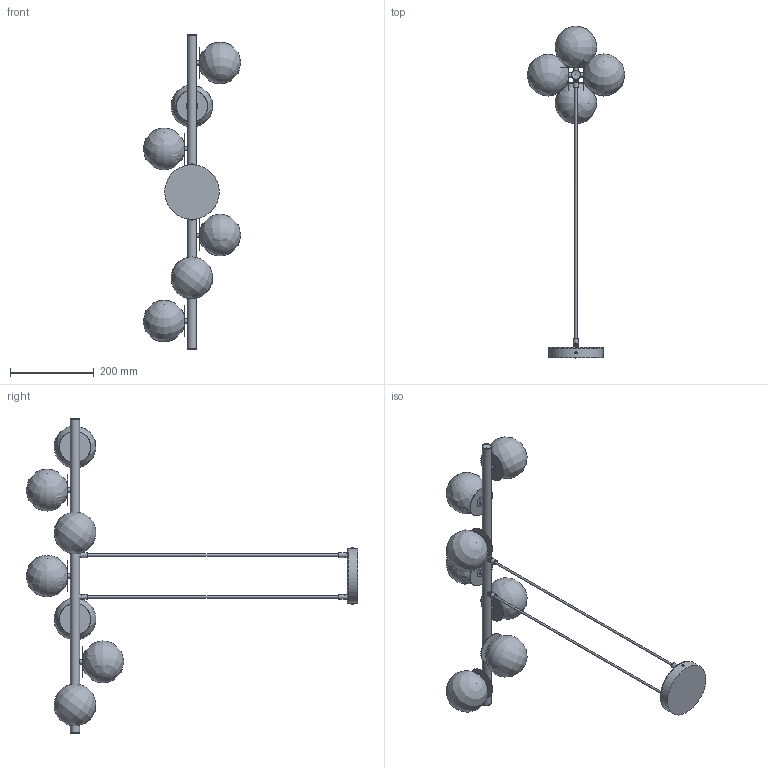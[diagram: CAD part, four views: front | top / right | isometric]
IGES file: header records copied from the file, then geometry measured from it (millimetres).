
Global section: file name: G:\\_Liczy si\X2\0119\X0\ s\X2\0142\X0\owo\\_Modelowanie SIGMA\\Avola\\Avola\\AVOLA.igs; native system: HarmonyWare Translators; preprocessor: HarmonyWare IGES v2.1.4; date: 20240902.101904; units: centimetre
Bounding box: 233.4 x 791.7 x 750 mm (x, y, z)
Volume: 773643.6 mm3; surface area: 747043.4 mm2
Topology: 262 solids, 262 shells, 10155 faces, 25026 edges, 14237 vertices
Faces by surface type: bspline 10155
